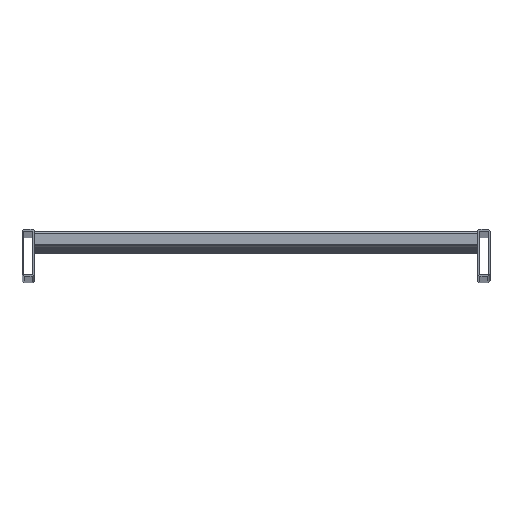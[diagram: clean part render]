
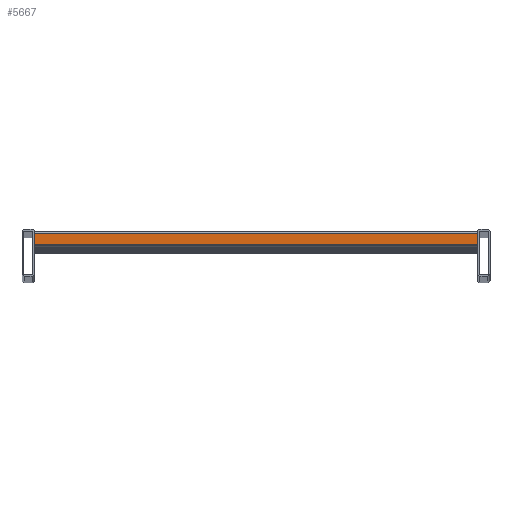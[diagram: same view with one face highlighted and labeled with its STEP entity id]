
A CAD part, top view. The second image highlights one B-rep face of the part: STEP entity #5667.
In plain terms, the highlighted planar face has unit normal (0, 0, 1).
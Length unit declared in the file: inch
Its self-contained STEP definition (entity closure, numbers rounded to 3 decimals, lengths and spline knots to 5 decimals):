
#85 = EDGE_CURVE ( 'NONE', #119, #6932, #3620, .T. ) ;
#113 = VERTEX_POINT ( 'NONE', #5922 ) ;
#119 = VERTEX_POINT ( 'NONE', #5928 ) ;
#771 = CARTESIAN_POINT ( 'NONE',  ( 14.6, 1.013, -5. ) ) ;
#794 = CARTESIAN_POINT ( 'NONE',  ( 14.6, 1.363, -5. ) ) ;
#1076 = CARTESIAN_POINT ( 'NONE',  ( 14.6, 1.438, -5. ) ) ;
#1077 = DIRECTION ( 'NONE',  ( 0., 1., 0. ) ) ;
#1511 = LINE ( 'NONE', #1725, #1512 ) ;
#1512 = VECTOR ( 'NONE', #1726, 39.37008 ) ;
#1580 = LINE ( 'NONE', #1809, #1581 ) ;
#1581 = VECTOR ( 'NONE', #1810, 39.37008 ) ;
#1725 = CARTESIAN_POINT ( 'NONE',  ( 0.4, 1.438, -5. ) ) ;
#1726 = DIRECTION ( 'NONE',  ( 0., -1., 0. ) ) ;
#1809 = CARTESIAN_POINT ( 'NONE',  ( 19685.03937, 1.363, -5. ) ) ;
#1810 = DIRECTION ( 'NONE',  ( -1., 0., 0. ) ) ;
#2574 = EDGE_LOOP ( 'NONE', ( #2645, #2646, #2647, #2648 ) ) ;
#2645 = ORIENTED_EDGE ( 'NONE', *, *, #7375, .T. ) ;
#2646 = ORIENTED_EDGE ( 'NONE', *, *, #85, .T. ) ;
#2647 = ORIENTED_EDGE ( 'NONE', *, *, #7090, .T. ) ;
#2648 = ORIENTED_EDGE ( 'NONE', *, *, #7413, .T. ) ;
#3620 = LINE ( 'NONE', #5892, #3621 ) ;
#3621 = VECTOR ( 'NONE', #5893, 39.37008 ) ;
#4247 = AXIS2_PLACEMENT_3D ( 'NONE', #5321, #5331, #5332 ) ;
#5321 = CARTESIAN_POINT ( 'NONE',  ( 19685.03937, 1.438, -5. ) ) ;
#5326 = PLANE ( 'NONE',  #4247 ) ;
#5331 = DIRECTION ( 'NONE',  ( 0., 0., -1. ) ) ;
#5332 = DIRECTION ( 'NONE',  ( -1., 0., 0. ) ) ;
#5667 = ADVANCED_FACE ( 'NONE', ( #6186 ), #5326, .F. ) ;
#5892 = CARTESIAN_POINT ( 'NONE',  ( 19685.03937, 1.013, -5. ) ) ;
#5893 = DIRECTION ( 'NONE',  ( 1., 0., 0. ) ) ;
#5922 = CARTESIAN_POINT ( 'NONE',  ( 0.4, 1.363, -5. ) ) ;
#5928 = CARTESIAN_POINT ( 'NONE',  ( 0.4, 1.013, -5. ) ) ;
#6186 = FACE_OUTER_BOUND ( 'NONE', #2574, .T. ) ;
#6623 = LINE ( 'NONE', #1076, #6624 ) ;
#6624 = VECTOR ( 'NONE', #1077, 39.37008 ) ;
#6932 = VERTEX_POINT ( 'NONE', #771 ) ;
#6955 = VERTEX_POINT ( 'NONE', #794 ) ;
#7090 = EDGE_CURVE ( 'NONE', #6932, #6955, #6623, .T. ) ;
#7375 = EDGE_CURVE ( 'NONE', #113, #119, #1511, .T. ) ;
#7413 = EDGE_CURVE ( 'NONE', #6955, #113, #1580, .T. ) ;
